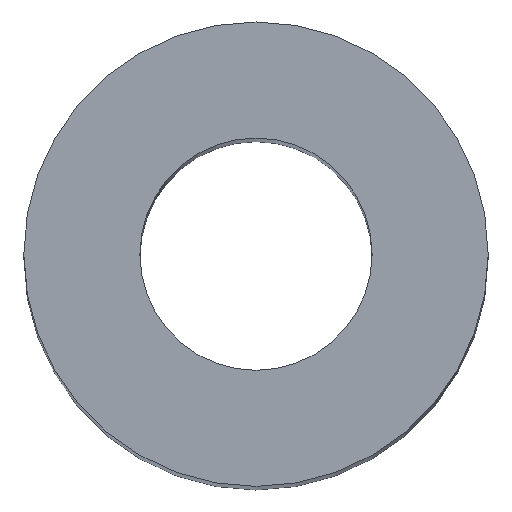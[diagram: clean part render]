
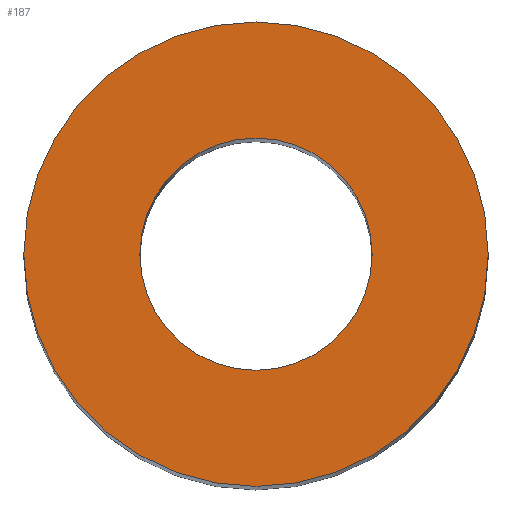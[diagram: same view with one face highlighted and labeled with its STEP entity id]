
A CAD part, top view. The second image highlights one B-rep face of the part: STEP entity #187.
In plain terms, the highlighted planar face has unit normal (0, 0, 1).
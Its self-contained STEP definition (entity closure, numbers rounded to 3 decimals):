
#8 = EDGE_CURVE ( 'NONE', #150, #145, #40, .T. ) ;
#17 = EDGE_CURVE ( 'NONE', #145, #150, #58, .T. ) ;
#18 = DIRECTION ( 'NONE',  ( 1., 0., 0. ) ) ;
#32 = CARTESIAN_POINT ( 'NONE',  ( -10., 0., 89. ) ) ;
#34 = VERTEX_POINT ( 'NONE', #115 ) ;
#39 = FACE_BOUND ( 'NONE', #125, .T. ) ;
#40 = CIRCLE ( 'NONE', #100, 10. ) ;
#43 = DIRECTION ( 'NONE',  ( 1., 0., 0. ) ) ;
#45 = AXIS2_PLACEMENT_3D ( 'NONE', #67, #174, #18 ) ;
#50 = CARTESIAN_POINT ( 'NONE',  ( 0., 0., 89. ) ) ;
#54 = ORIENTED_EDGE ( 'NONE', *, *, #140, .F. ) ;
#58 = CIRCLE ( 'NONE', #77, 10. ) ;
#61 = ORIENTED_EDGE ( 'NONE', *, *, #17, .T. ) ;
#64 = CARTESIAN_POINT ( 'NONE',  ( 0., 0., 89. ) ) ;
#67 = CARTESIAN_POINT ( 'NONE',  ( 0., 0., 89. ) ) ;
#77 = AXIS2_PLACEMENT_3D ( 'NONE', #213, #138, #190 ) ;
#86 = FACE_OUTER_BOUND ( 'NONE', #182, .T. ) ;
#93 = EDGE_CURVE ( 'NONE', #180, #34, #139, .T. ) ;
#98 = DIRECTION ( 'NONE',  ( 1., 0., 0. ) ) ;
#99 = DIRECTION ( 'NONE',  ( 0., 0., 1. ) ) ;
#100 = AXIS2_PLACEMENT_3D ( 'NONE', #110, #175, #124 ) ;
#110 = CARTESIAN_POINT ( 'NONE',  ( 0., 0., 89. ) ) ;
#114 = ORIENTED_EDGE ( 'NONE', *, *, #93, .F. ) ;
#115 = CARTESIAN_POINT ( 'NONE',  ( 5., 0., 89. ) ) ;
#124 = DIRECTION ( 'NONE',  ( 1., 0., 0. ) ) ;
#125 = EDGE_LOOP ( 'NONE', ( #114, #54 ) ) ;
#129 = CARTESIAN_POINT ( 'NONE',  ( 10., 0., 89. ) ) ;
#138 = DIRECTION ( 'NONE',  ( 0., 0., 1. ) ) ;
#139 = CIRCLE ( 'NONE', #167, 5. ) ;
#140 = EDGE_CURVE ( 'NONE', #34, #180, #147, .T. ) ;
#145 = VERTEX_POINT ( 'NONE', #32 ) ;
#146 = DIRECTION ( 'NONE',  ( 0., 0., 1. ) ) ;
#147 = CIRCLE ( 'NONE', #45, 5. ) ;
#149 = ORIENTED_EDGE ( 'NONE', *, *, #8, .T. ) ;
#150 = VERTEX_POINT ( 'NONE', #129 ) ;
#167 = AXIS2_PLACEMENT_3D ( 'NONE', #64, #99, #98 ) ;
#174 = DIRECTION ( 'NONE',  ( 0., 0., 1. ) ) ;
#175 = DIRECTION ( 'NONE',  ( 0., 0., 1. ) ) ;
#180 = VERTEX_POINT ( 'NONE', #193 ) ;
#182 = EDGE_LOOP ( 'NONE', ( #61, #149 ) ) ;
#186 = AXIS2_PLACEMENT_3D ( 'NONE', #50, #146, #43 ) ;
#187 = ADVANCED_FACE ( 'NONE', ( #86, #39 ), #212, .T. ) ;
#190 = DIRECTION ( 'NONE',  ( 1., 0., 0. ) ) ;
#193 = CARTESIAN_POINT ( 'NONE',  ( -5., 0., 89. ) ) ;
#212 = PLANE ( 'NONE',  #186 ) ;
#213 = CARTESIAN_POINT ( 'NONE',  ( 0., 0., 89. ) ) ;
